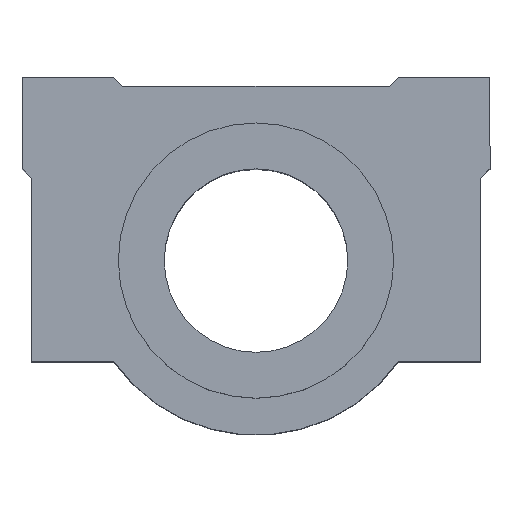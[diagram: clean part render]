
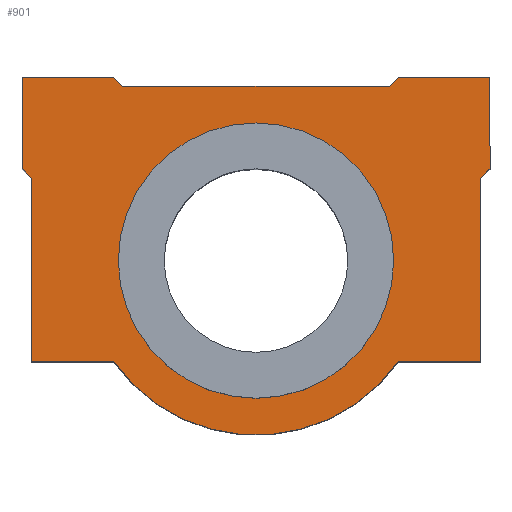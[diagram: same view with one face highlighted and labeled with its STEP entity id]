
A CAD part, top view. The second image highlights one B-rep face of the part: STEP entity #901.
In plain terms, the highlighted planar face has unit normal (0, 0, 1).
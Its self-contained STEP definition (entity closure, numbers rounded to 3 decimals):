
#133=CARTESIAN_POINT('',(-30.709,4.198,68.2));
#134=VERTEX_POINT('',#133);
#143=CARTESIAN_POINT('',(29.291,4.198,68.2));
#144=VERTEX_POINT('',#143);
#145=CARTESIAN_POINT('',(-0.709,4.198,68.2));
#146=DIRECTION('',(0.0,0.0,1.0));
#147=DIRECTION('',(-1.0,0.0,0.0));
#148=AXIS2_PLACEMENT_3D('',#145,#146,#147);
#149=CIRCLE('',#148,30.0);
#150=EDGE_CURVE('',#134,#144,#149,.T.);
#522=CARTESIAN_POINT('',(50.291,24.198,68.2));
#523=VERTEX_POINT('',#522);
#524=CARTESIAN_POINT('',(48.291,22.198,68.2));
#525=VERTEX_POINT('',#524);
#526=CARTESIAN_POINT('',(50.291,24.198,68.2));
#527=DIRECTION('',(-0.707,-0.707,0.0));
#528=VECTOR('',#527,2.828);
#529=LINE('',#526,#528);
#530=EDGE_CURVE('',#523,#525,#529,.T.);
#553=CARTESIAN_POINT('',(48.291,-17.802,68.2));
#554=VERTEX_POINT('',#553);
#555=CARTESIAN_POINT('',(48.291,22.198,68.2));
#556=DIRECTION('',(0.0,-1.0,0.0));
#557=VECTOR('',#556,40.);
#558=LINE('',#555,#557);
#559=EDGE_CURVE('',#525,#554,#558,.T.);
#577=CARTESIAN_POINT('',(30.275,-17.802,68.2));
#578=VERTEX_POINT('',#577);
#579=CARTESIAN_POINT('',(48.291,-17.802,68.2));
#580=DIRECTION('',(-1.0,0.0,0.0));
#581=VECTOR('',#580,18.016);
#582=LINE('',#579,#581);
#583=EDGE_CURVE('',#554,#578,#582,.T.);
#605=CARTESIAN_POINT('',(-31.693,-17.802,68.2));
#606=VERTEX_POINT('',#605);
#607=CARTESIAN_POINT('',(-0.709,4.198,68.2));
#608=DIRECTION('',(0.0,0.0,-1.));
#609=DIRECTION('',(0.815,0.579,0.0));
#610=AXIS2_PLACEMENT_3D('',#607,#608,#609);
#611=CIRCLE('',#610,38.0);
#612=EDGE_CURVE('',#578,#606,#611,.T.);
#630=CARTESIAN_POINT('',(-49.709,-17.802,68.2));
#631=VERTEX_POINT('',#630);
#632=CARTESIAN_POINT('',(-31.693,-17.802,68.2));
#633=DIRECTION('',(-1.0,0.0,0.0));
#634=VECTOR('',#633,18.016);
#635=LINE('',#632,#634);
#636=EDGE_CURVE('',#606,#631,#635,.T.);
#658=CARTESIAN_POINT('',(-49.709,22.198,68.2));
#659=VERTEX_POINT('',#658);
#660=CARTESIAN_POINT('',(-49.709,-17.802,68.2));
#661=DIRECTION('',(0.0,1.0,0.0));
#662=VECTOR('',#661,40.);
#663=LINE('',#660,#662);
#664=EDGE_CURVE('',#631,#659,#663,.T.);
#682=CARTESIAN_POINT('',(-51.709,24.198,68.2));
#683=VERTEX_POINT('',#682);
#684=CARTESIAN_POINT('',(-49.709,22.198,68.2));
#685=DIRECTION('',(-0.707,0.707,0.0));
#686=VECTOR('',#685,2.828);
#687=LINE('',#684,#686);
#688=EDGE_CURVE('',#659,#683,#687,.T.);
#706=CARTESIAN_POINT('',(-51.709,44.198,68.2));
#707=VERTEX_POINT('',#706);
#708=CARTESIAN_POINT('',(-51.709,24.198,68.2));
#709=DIRECTION('',(0.0,1.0,0.0));
#710=VECTOR('',#709,20.0);
#711=LINE('',#708,#710);
#712=EDGE_CURVE('',#683,#707,#711,.T.);
#730=CARTESIAN_POINT('',(-31.709,44.198,68.2));
#731=VERTEX_POINT('',#730);
#732=CARTESIAN_POINT('',(-51.709,44.198,68.2));
#733=DIRECTION('',(1.0,0.0,0.0));
#734=VECTOR('',#733,20.);
#735=LINE('',#732,#734);
#736=EDGE_CURVE('',#707,#731,#735,.T.);
#758=CARTESIAN_POINT('',(-29.709,42.198,68.2));
#759=VERTEX_POINT('',#758);
#760=CARTESIAN_POINT('',(-31.709,44.198,68.2));
#761=DIRECTION('',(0.707,-0.707,0.0));
#762=VECTOR('',#761,2.828);
#763=LINE('',#760,#762);
#764=EDGE_CURVE('',#731,#759,#763,.T.);
#782=CARTESIAN_POINT('',(28.291,42.198,68.2));
#783=VERTEX_POINT('',#782);
#784=CARTESIAN_POINT('',(-29.709,42.198,68.2));
#785=DIRECTION('',(1.0,0.0,0.0));
#786=VECTOR('',#785,58.);
#787=LINE('',#784,#786);
#788=EDGE_CURVE('',#759,#783,#787,.T.);
#806=CARTESIAN_POINT('',(30.291,44.198,68.2));
#807=VERTEX_POINT('',#806);
#808=CARTESIAN_POINT('',(28.291,42.198,68.2));
#809=DIRECTION('',(0.707,0.707,0.0));
#810=VECTOR('',#809,2.828);
#811=LINE('',#808,#810);
#812=EDGE_CURVE('',#783,#807,#811,.T.);
#830=CARTESIAN_POINT('',(50.291,44.198,68.2));
#831=VERTEX_POINT('',#830);
#832=CARTESIAN_POINT('',(30.291,44.198,68.2));
#833=DIRECTION('',(1.0,0.0,0.0));
#834=VECTOR('',#833,20.);
#835=LINE('',#832,#834);
#836=EDGE_CURVE('',#807,#831,#835,.T.);
#858=CARTESIAN_POINT('',(50.291,44.198,68.2));
#859=DIRECTION('',(0.0,-1.0,0.0));
#860=VECTOR('',#859,20.0);
#861=LINE('',#858,#860);
#862=EDGE_CURVE('',#831,#523,#861,.T.);
#870=CARTESIAN_POINT('',(-0.709,10.416,68.2));
#871=DIRECTION('',(0.0,0.0,1.0));
#872=DIRECTION('',(1.0,0.0,0.0));
#873=AXIS2_PLACEMENT_3D('',#870,#871,#872);
#874=PLANE('',#873);
#875=ORIENTED_EDGE('',*,*,#530,.F.);
#876=ORIENTED_EDGE('',*,*,#862,.F.);
#877=ORIENTED_EDGE('',*,*,#836,.F.);
#878=ORIENTED_EDGE('',*,*,#812,.F.);
#879=ORIENTED_EDGE('',*,*,#788,.F.);
#880=ORIENTED_EDGE('',*,*,#764,.F.);
#881=ORIENTED_EDGE('',*,*,#736,.F.);
#882=ORIENTED_EDGE('',*,*,#712,.F.);
#883=ORIENTED_EDGE('',*,*,#688,.F.);
#884=ORIENTED_EDGE('',*,*,#664,.F.);
#885=ORIENTED_EDGE('',*,*,#636,.F.);
#886=ORIENTED_EDGE('',*,*,#612,.F.);
#887=ORIENTED_EDGE('',*,*,#583,.F.);
#888=ORIENTED_EDGE('',*,*,#559,.F.);
#889=EDGE_LOOP('',(#875,#876,#877,#878,#879,#880,#881,#882,#883,#884,#885,#886,#887,#888));
#890=FACE_OUTER_BOUND('',#889,.T.);
#891=CARTESIAN_POINT('',(-0.709,4.198,68.2));
#892=DIRECTION('',(0.0,0.0,1.0));
#893=DIRECTION('',(-1.0,0.0,0.0));
#894=AXIS2_PLACEMENT_3D('',#891,#892,#893);
#895=CIRCLE('',#894,30.0);
#896=EDGE_CURVE('',#144,#134,#895,.T.);
#897=ORIENTED_EDGE('',*,*,#896,.F.);
#898=ORIENTED_EDGE('',*,*,#150,.F.);
#899=EDGE_LOOP('',(#897,#898));
#900=FACE_BOUND('',#899,.T.);
#901=ADVANCED_FACE('',(#890,#900),#874,.T.);
